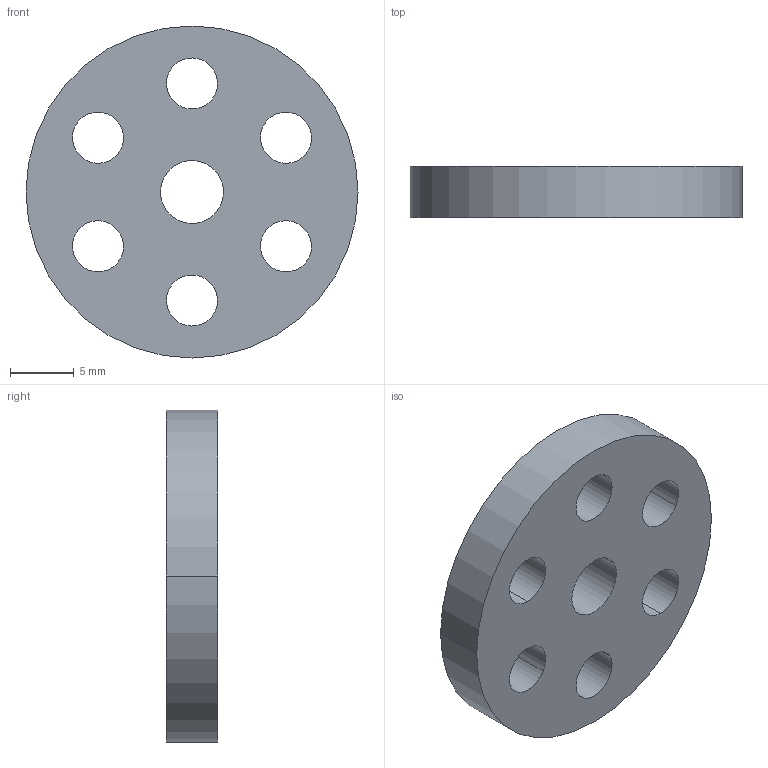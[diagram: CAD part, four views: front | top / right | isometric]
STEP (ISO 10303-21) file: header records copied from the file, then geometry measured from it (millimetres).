
FILE_DESCRIPTION(('CATIA V5 STEP Exchange'),'2;1');
FILE_NAME('C:\Users\Administrateur\Documents\Monture\Monture_voyage\Commande\Raccord.stp','2023-03-13T07:11:49+00:00',('none'),('none'),'CATIA Version 5 Release 18 GA (IN-10)','CATIA V5 STEP AP203','none');
FILE_SCHEMA(('CONFIG_CONTROL_DESIGN'));
Length unit declared in the file: millimetre
Products named in the file (1): Raccord
Bounding box: 26 x 4 x 26 mm (x, y, z)
Volume: 1746.2 mm3; surface area: 1563.2 mm2
Topology: 1 solids, 1 shells, 18 faces, 48 edges, 32 vertices
Faces by surface type: cylinder 16, plane 2
Entity records: 582 total; most frequent: ORIENTED_EDGE 96, CARTESIAN_POINT 91, DIRECTION 68, EDGE_CURVE 48, AXIS2_PLACEMENT_3D 43, CIRCLE 32, EDGE_LOOP 32, VERTEX_POINT 32
